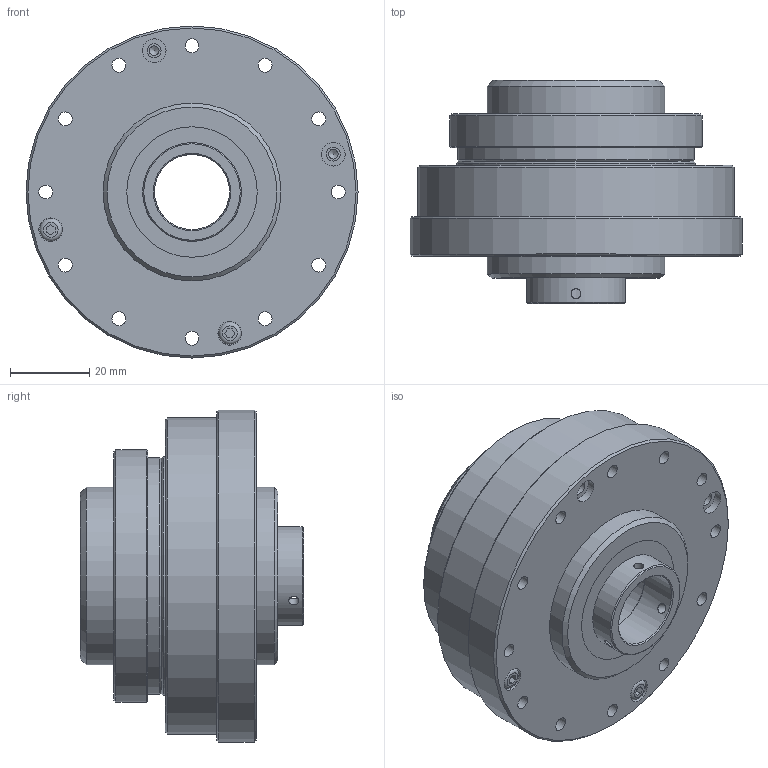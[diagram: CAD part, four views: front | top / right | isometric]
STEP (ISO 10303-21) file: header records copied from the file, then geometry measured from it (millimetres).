
FILE_DESCRIPTION(/* description */ (''),/* implementation_level */ '2;1');
FILE_NAME(/* name */ 'LHT-17-U-3',/* time_stamp */ '2017-09-16T15:20:51+08:00',/* author */ (''),/* organization */ (''),/* preprocessor_version */ 'ST-DEVELOPER v9',/* originating_system */ 'UGS - NX 4.0',/* authorisation */ '');
FILE_SCHEMA (('AUTOMOTIVE_DESIGN { 1 0 10303 214 1 1 1 1 }'));
Length unit declared in the file: millimetre
Products named in the file (1): Admi85A9d2p1
Bounding box: 84 x 56.5 x 84 mm (x, y, z)
Volume: 148547.7 mm3; surface area: 104580.9 mm2
Topology: 75 solids, 75 shells, 584 faces, 1344 edges, 889 vertices
Faces by surface type: cylinder 262, plane 203, cone 55, torus 32, sphere 31, revolution 1
Full cylindrical faces by diameter (mm): 2.1 x1, 2.459 x28, 2.5 x3, 3 x4, 3.5 x84, 4 x21, 5.5 x2, 5.7 x2, 6 x8, 19 x2, 19.5 x1, 25 x6, 28 x1, 28.2 x2, 28.5 x1, 29 x2, 30 x3, 32 x1, 33 x2, 33.5 x1, 33.8 x2, 34 x2, 36 x1, 36.5 x1, 37 x6, 38 x1, 40 x1, 42 x3, 45 x2, 46.5 x1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
Entity records: 15072 total; most frequent: DIRECTION 2685, CARTESIAN_POINT 2568, ORIENTED_EDGE 1700, AXIS2_PLACEMENT_3D 1255, EDGE_LOOP 1107, FACE_BOUND 864, EDGE_CURVE 850, VERTEX_POINT 790
